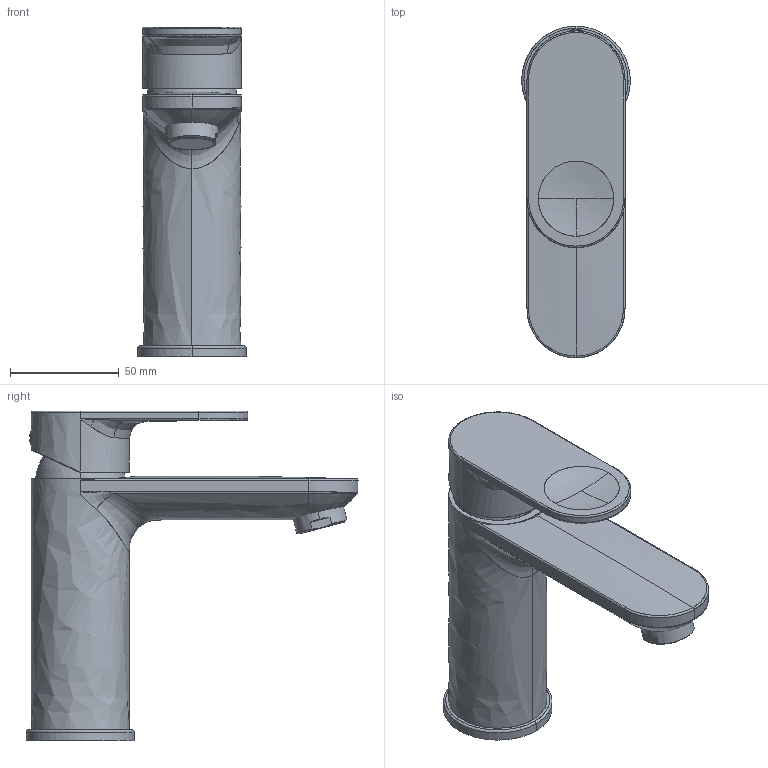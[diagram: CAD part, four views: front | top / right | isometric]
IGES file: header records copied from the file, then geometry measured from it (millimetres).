
Global section: file name: D:\01_Planungsdaten\_news19\Armaturen\B3\B31010002010\3D\B31010002010.igs; native system: Rhinoceros ( Sep 13 2016 ); preprocessor: Trout Lake IGES 012 Sep 13 2016; date: 190225.120009; units: millimetre
Bounding box: 49.8 x 152.4 x 151.35 mm (x, y, z)
Surface area: 47387.7 mm2 (no closed solid volume)
Topology: 0 solids, 0 shells, 115 faces, 1295 edges, 1290 vertices
Faces by surface type: bspline 115
